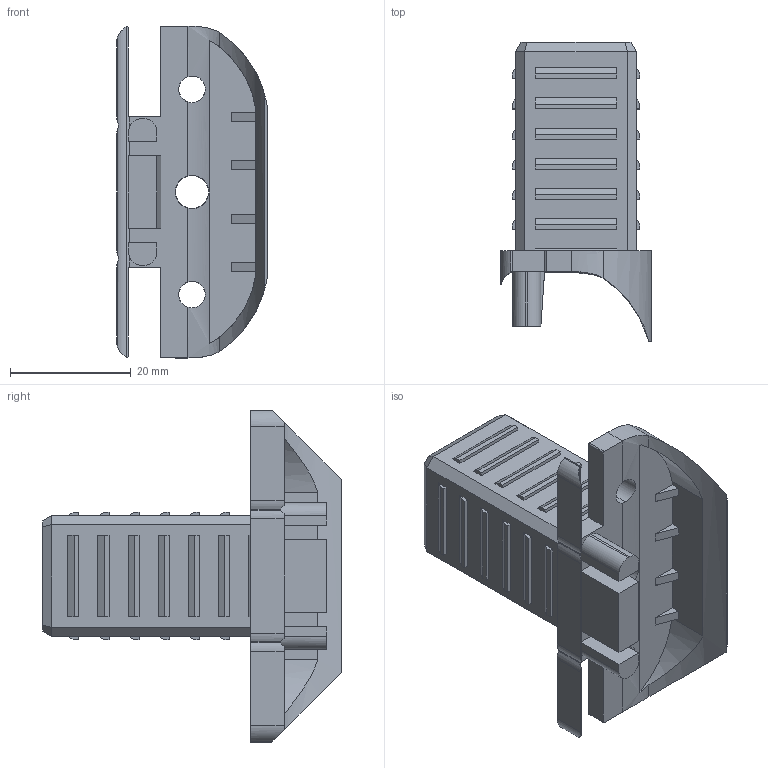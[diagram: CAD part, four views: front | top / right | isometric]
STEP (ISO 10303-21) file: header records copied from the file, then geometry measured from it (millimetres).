
FILE_DESCRIPTION (( 'STEP AP214' ), '1' );
FILE_NAME ('013.025.108.STEP', '2021-07-20T11:37:29', ( '' ), ( '' ), 'SwSTEP 2.0', 'SolidWorks 2018', '' );
FILE_SCHEMA (( 'AUTOMOTIVE_DESIGN' ));
Length unit declared in the file: millimetre
Products named in the file (1): 013.025.108
Bounding box: 25 x 49.5 x 55 mm (x, y, z)
Volume: 12348.1 mm3; surface area: 10069.1 mm2
Topology: 1 solids, 1 shells, 289 faces, 777 edges, 514 vertices
Faces by surface type: plane 234, cylinder 50, bspline 5
Entity records: 9238 total; most frequent: CARTESIAN_POINT 1945, ORIENTED_EDGE 1554, DIRECTION 1400, EDGE_CURVE 777, VECTOR 650, LINE 650, VERTEX_POINT 514, AXIS2_PLACEMENT_3D 375
